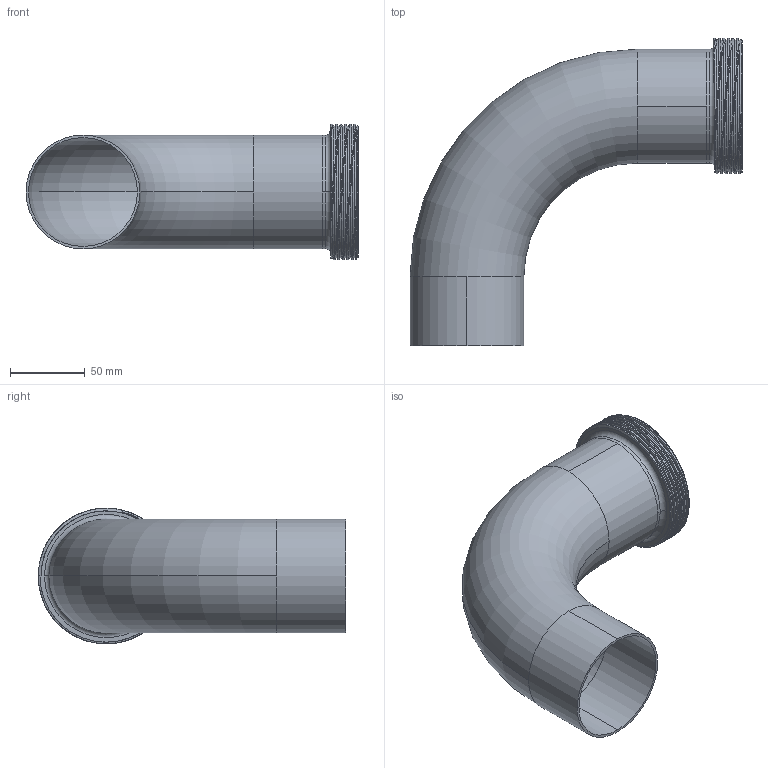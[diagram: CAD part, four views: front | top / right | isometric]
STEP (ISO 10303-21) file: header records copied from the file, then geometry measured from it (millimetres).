
FILE_DESCRIPTION (( 'STEP AP203' ), '1' );
FILE_NAME ('E2T3.0.STEP', '2018-05-02T15:06:26', ( 'vneprd' ), ( 'Microsoft' ), 'SwSTEP 2.0', 'SolidWorks 2014', '' );
FILE_SCHEMA (( 'CONFIG_CONTROL_DESIGN' ));
Length unit declared in the file: inch
Products named in the file (3): E2T3.0; E2S3.0; 15TR3.0
Assembly tree (2 placements, depth 2):
  E2T3.0
    E2S3.0
    15TR3.0
Bounding box: 222.22 x 205.73 x 90.8 mm (x, y, z)
Volume: 144267 mm3; surface area: 145962.1 mm2
Topology: 2 solids, 2 shells, 47 faces, 122 edges, 80 vertices
Faces by surface type: cylinder 26, plane 7, torus 6, bspline 6, cone 2
Entity records: 4641 total; most frequent: CARTESIAN_POINT 3261, ORIENTED_EDGE 244, DIRECTION 217, EDGE_CURVE 122, AXIS2_PLACEMENT_3D 91, VERTEX_POINT 80, EDGE_LOOP 52, FACE_OUTER_BOUND 47
